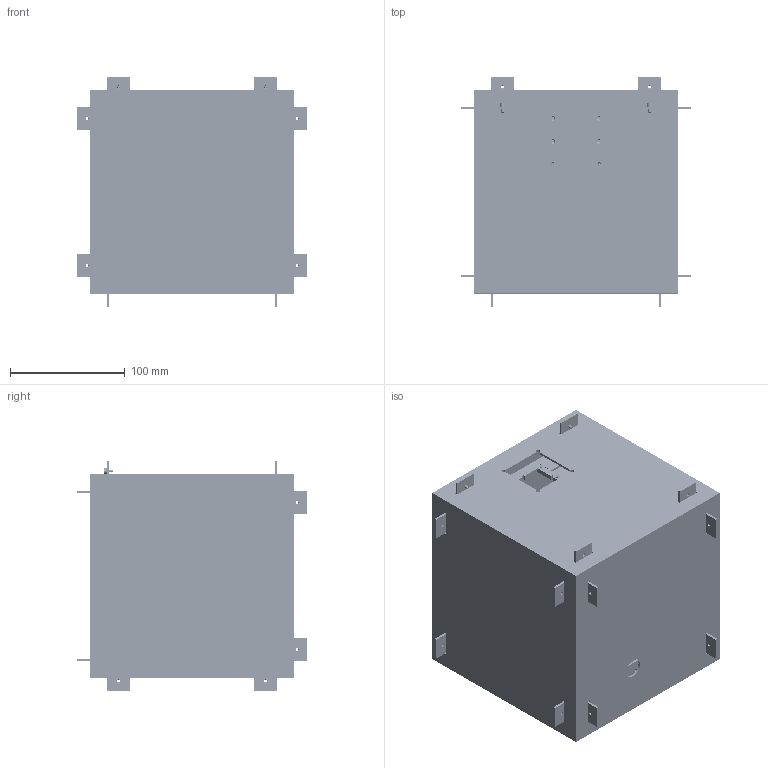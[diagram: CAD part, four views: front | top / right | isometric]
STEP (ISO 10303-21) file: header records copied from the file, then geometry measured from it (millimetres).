
FILE_DESCRIPTION (( 'STEP AP214' ), '1' );
FILE_NAME ('Assieme sezione scatola piccola (3).STEP', '2016-02-27T09:23:23', ( '' ), ( '' ), 'SwSTEP 2.0', 'SolidWorks 2012', '' );
FILE_SCHEMA (( 'AUTOMOTIVE_DESIGN' ));
Length unit declared in the file: millimetre
Products named in the file (15): vite M3 x 5; SC69; SC2; SC15; SC41; SC53; SC37; SC4; SC3; Assieme sezione scatola piccola (3); SC13; SC68; SC54; SC38; SC1
Assembly tree (59 placements, depth 2):
  Assieme sezione scatola piccola (3)
    SC37
    SC3  x11
    SC68
    SC4  x4
    SC1
    SC2  x5
    SC38
    SC41
    SC13  x12
    SC15  x12
    SC69
    SC54
    SC53  x4
    vite M3 x 5  x4
Bounding box: 200 x 200 x 200 mm (x, y, z)
Volume: 817172.4 mm3; surface area: 870510.1 mm2
Topology: 59 solids, 59 shells, 2932 faces, 7772 edges, 4980 vertices
Faces by surface type: cylinder 1256, cone 810, plane 770, bspline 96
Entity records: 29721 total; most frequent: CARTESIAN_POINT 6014, DIRECTION 5007, ORIENTED_EDGE 4566, EDGE_CURVE 2283, AXIS2_PLACEMENT_3D 1901, VERTEX_POINT 1480, EDGE_LOOP 1251, VECTOR 1205
